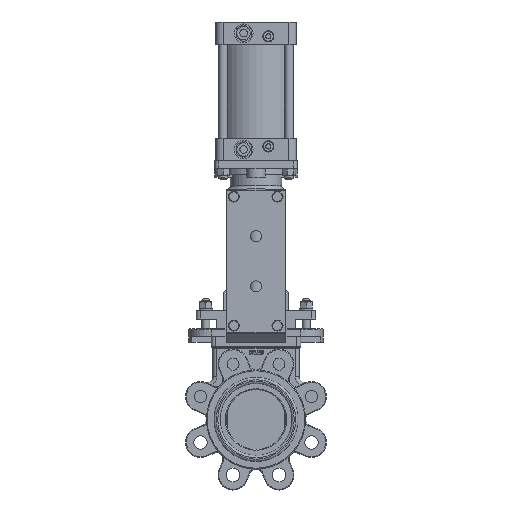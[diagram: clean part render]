
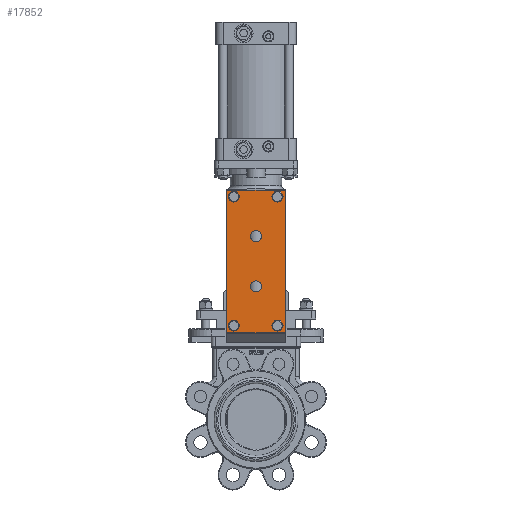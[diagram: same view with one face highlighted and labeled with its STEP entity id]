
A CAD part, top view. The second image highlights one B-rep face of the part: STEP entity #17852.
In plain terms, the highlighted planar face has unit normal (0, 0, 1).
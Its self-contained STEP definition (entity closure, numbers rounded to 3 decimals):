
#774=FACE_BOUND('',#3316,.T.);
#775=FACE_BOUND('',#3317,.T.);
#776=FACE_BOUND('',#3318,.T.);
#777=FACE_BOUND('',#3319,.T.);
#778=FACE_BOUND('',#3320,.T.);
#779=FACE_BOUND('',#3321,.T.);
#1203=PLANE('',#19674);
#2162=FACE_OUTER_BOUND('',#3315,.T.);
#3315=EDGE_LOOP('',(#14804,#14805,#14806,#14807));
#3316=EDGE_LOOP('',(#14808));
#3317=EDGE_LOOP('',(#14809));
#3318=EDGE_LOOP('',(#14810));
#3319=EDGE_LOOP('',(#14811));
#3320=EDGE_LOOP('',(#14812));
#3321=EDGE_LOOP('',(#14813));
#4546=LINE('',#30438,#5758);
#4549=LINE('',#30444,#5761);
#4554=LINE('',#30454,#5766);
#4557=LINE('',#30458,#5769);
#5758=VECTOR('',#24146,10.);
#5761=VECTOR('',#24151,10.);
#5766=VECTOR('',#24158,10.);
#5769=VECTOR('',#24163,10.);
#6066=CIRCLE('',#18297,7.);
#6069=CIRCLE('',#18302,7.);
#6071=CIRCLE('',#18306,7.);
#6074=CIRCLE('',#18311,7.);
#6755=CIRCLE('',#19665,7.5);
#6757=CIRCLE('',#19668,7.5);
#6995=VERTEX_POINT('',#25587);
#6998=VERTEX_POINT('',#25596);
#7000=VERTEX_POINT('',#25603);
#7003=VERTEX_POINT('',#25612);
#8212=VERTEX_POINT('',#30416);
#8214=VERTEX_POINT('',#30422);
#8220=VERTEX_POINT('',#30435);
#8221=VERTEX_POINT('',#30437);
#8223=VERTEX_POINT('',#30443);
#8227=VERTEX_POINT('',#30453);
#8633=EDGE_CURVE('',#6995,#6995,#6066,.T.);
#8637=EDGE_CURVE('',#6998,#6998,#6069,.T.);
#8640=EDGE_CURVE('',#7000,#7000,#6071,.T.);
#8644=EDGE_CURVE('',#7003,#7003,#6074,.T.);
#10486=EDGE_CURVE('',#8212,#8212,#6755,.T.);
#10489=EDGE_CURVE('',#8214,#8214,#6757,.T.);
#10496=EDGE_CURVE('',#8221,#8220,#4546,.T.);
#10499=EDGE_CURVE('',#8223,#8221,#4549,.T.);
#10504=EDGE_CURVE('',#8227,#8223,#4554,.T.);
#10507=EDGE_CURVE('',#8220,#8227,#4557,.T.);
#14804=ORIENTED_EDGE('',*,*,#10507,.T.);
#14805=ORIENTED_EDGE('',*,*,#10504,.T.);
#14806=ORIENTED_EDGE('',*,*,#10499,.T.);
#14807=ORIENTED_EDGE('',*,*,#10496,.T.);
#14808=ORIENTED_EDGE('',*,*,#8633,.T.);
#14809=ORIENTED_EDGE('',*,*,#8637,.T.);
#14810=ORIENTED_EDGE('',*,*,#8640,.T.);
#14811=ORIENTED_EDGE('',*,*,#8644,.T.);
#14812=ORIENTED_EDGE('',*,*,#10489,.T.);
#14813=ORIENTED_EDGE('',*,*,#10486,.T.);
#17852=ADVANCED_FACE('',(#2162,#774,#775,#776,#777,#778,#779),#1203,.T.);
#18297=AXIS2_PLACEMENT_3D('',#25589,#20496,#20497);
#18302=AXIS2_PLACEMENT_3D('',#25598,#20507,#20508);
#18306=AXIS2_PLACEMENT_3D('',#25605,#20516,#20517);
#18311=AXIS2_PLACEMENT_3D('',#25614,#20527,#20528);
#19665=AXIS2_PLACEMENT_3D('',#30417,#24128,#24129);
#19668=AXIS2_PLACEMENT_3D('',#30423,#24135,#24136);
#19674=AXIS2_PLACEMENT_3D('',#30459,#24164,#24165);
#20496=DIRECTION('center_axis',(0.,0.,-1.));
#20497=DIRECTION('ref_axis',(-1.,0.,0.));
#20507=DIRECTION('center_axis',(0.,0.,-1.));
#20508=DIRECTION('ref_axis',(-1.,0.,0.));
#20516=DIRECTION('center_axis',(0.,0.,-1.));
#20517=DIRECTION('ref_axis',(-1.,0.,0.));
#20527=DIRECTION('center_axis',(0.,0.,-1.));
#20528=DIRECTION('ref_axis',(-1.,0.,0.));
#24128=DIRECTION('center_axis',(0.,0.,-1.));
#24129=DIRECTION('ref_axis',(-1.,0.,0.));
#24135=DIRECTION('center_axis',(0.,0.,-1.));
#24136=DIRECTION('ref_axis',(-1.,0.,0.));
#24146=DIRECTION('',(0.,1.,0.));
#24151=DIRECTION('',(1.,0.,0.));
#24158=DIRECTION('',(0.,-1.,0.));
#24163=DIRECTION('',(-1.,0.,0.));
#24164=DIRECTION('center_axis',(0.,0.,1.));
#24165=DIRECTION('ref_axis',(1.,0.,0.));
#25587=CARTESIAN_POINT('',(35.504,297.,40.));
#25589=CARTESIAN_POINT('Origin',(28.504,297.,40.));
#25596=CARTESIAN_POINT('',(-22.541,297.,40.));
#25598=CARTESIAN_POINT('Origin',(-29.541,297.,40.));
#25603=CARTESIAN_POINT('',(-22.541,125.,40.));
#25605=CARTESIAN_POINT('Origin',(-29.541,125.,40.));
#25612=CARTESIAN_POINT('',(35.504,125.,40.));
#25614=CARTESIAN_POINT('Origin',(28.504,125.,40.));
#30416=CARTESIAN_POINT('',(7.5,177.528,40.));
#30417=CARTESIAN_POINT('Origin',(0.,177.528,
40.));
#30422=CARTESIAN_POINT('',(7.5,244.472,40.));
#30423=CARTESIAN_POINT('Origin',(0.,244.472,
40.));
#30435=CARTESIAN_POINT('',(39.,306.,40.));
#30437=CARTESIAN_POINT('',(39.,116.,40.));
#30438=CARTESIAN_POINT('',(39.,116.,40.));
#30443=CARTESIAN_POINT('',(-39.,116.,40.));
#30444=CARTESIAN_POINT('',(-39.,116.,40.));
#30453=CARTESIAN_POINT('',(-39.,306.,40.));
#30454=CARTESIAN_POINT('',(-39.,306.,40.));
#30458=CARTESIAN_POINT('',(39.,306.,40.));
#30459=CARTESIAN_POINT('Origin',(0.,211.,40.));
